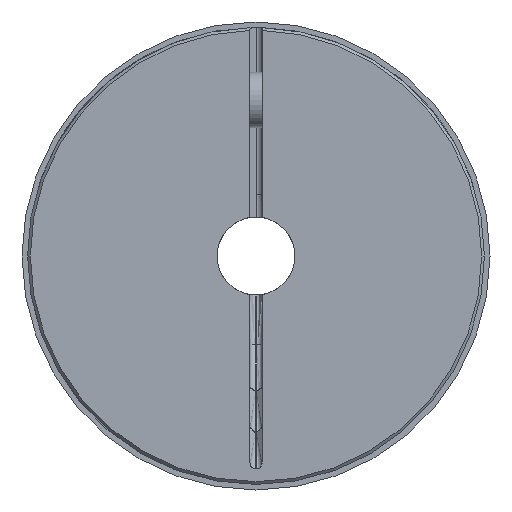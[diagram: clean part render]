
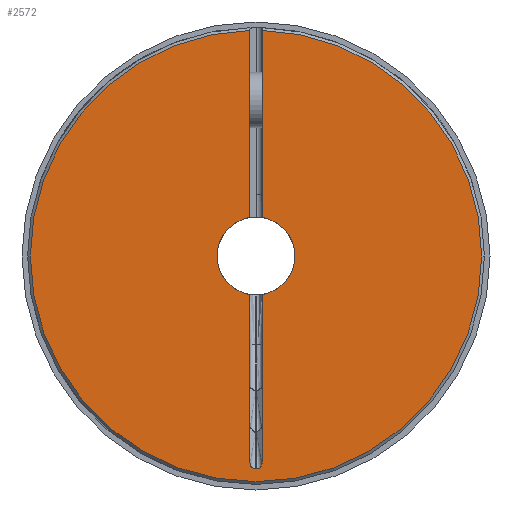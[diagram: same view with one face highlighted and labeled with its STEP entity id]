
A CAD part, left-side view. The second image highlights one B-rep face of the part: STEP entity #2572.
In plain terms, the highlighted planar face has unit normal (-1, 0, 0).
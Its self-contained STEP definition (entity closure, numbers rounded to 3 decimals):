
#16 = ORIENTED_EDGE ( 'NONE', *, *, #86, .T. ) ;
#19 = VERTEX_POINT ( 'NONE', #2477 ) ;
#26 = CARTESIAN_POINT ( 'NONE',  ( -16.75, 0., 0. ) ) ;
#46 = CARTESIAN_POINT ( 'NONE',  ( -16.75, -1.1, -36.948 ) ) ;
#48 = ORIENTED_EDGE ( 'NONE', *, *, #1760, .T. ) ;
#60 = EDGE_CURVE ( 'NONE', #1389, #82, #852, .T. ) ;
#61 = ORIENTED_EDGE ( 'NONE', *, *, #1246, .T. ) ;
#82 = VERTEX_POINT ( 'NONE', #1049 ) ;
#86 = EDGE_CURVE ( 'NONE', #19, #234, #2545, .T. ) ;
#110 = CIRCLE ( 'NONE', #3406, 7. ) ;
#113 = DIRECTION ( 'NONE',  ( 0., 1., 0. ) ) ;
#115 = VERTEX_POINT ( 'NONE', #1430 ) ;
#182 = VERTEX_POINT ( 'NONE', #1445 ) ;
#234 = VERTEX_POINT ( 'NONE', #1285 ) ;
#239 = CARTESIAN_POINT ( 'NONE',  ( -16.75, -0.656, -38.025 ) ) ;
#253 = CARTESIAN_POINT ( 'NONE',  ( -16.75, 0.935, -37.671 ) ) ;
#261 = CARTESIAN_POINT ( 'NONE',  ( -16.75, -1.08, -37.246 ) ) ;
#270 = CARTESIAN_POINT ( 'NONE',  ( -16.75, -40.5, 0. ) ) ;
#274 = CARTESIAN_POINT ( 'NONE',  ( -16.75, 1.1, -37.099 ) ) ;
#313 = DIRECTION ( 'NONE',  ( 0., 0., 1. ) ) ;
#332 = VERTEX_POINT ( 'NONE', #2070 ) ;
#369 = EDGE_CURVE ( 'NONE', #115, #182, #2473, .T. ) ;
#424 = ORIENTED_EDGE ( 'NONE', *, *, #369, .T. ) ;
#438 = DIRECTION ( 'NONE',  ( 1., 0., 0. ) ) ;
#478 = CARTESIAN_POINT ( 'NONE',  ( -16.75, 0., 0. ) ) ;
#515 = DIRECTION ( 'NONE',  ( -1., 0., 0. ) ) ;
#522 = DIRECTION ( 'NONE',  ( 0., 0., 1. ) ) ;
#576 = LINE ( 'NONE', #3378, #3127 ) ;
#657 = AXIS2_PLACEMENT_3D ( 'NONE', #2500, #2708, #3051 ) ;
#755 = ORIENTED_EDGE ( 'NONE', *, *, #1512, .T. ) ;
#774 = FACE_OUTER_BOUND ( 'NONE', #1407, .T. ) ;
#846 = ORIENTED_EDGE ( 'NONE', *, *, #2248, .T. ) ;
#852 = LINE ( 'NONE', #2504, #3412 ) ;
#881 = AXIS2_PLACEMENT_3D ( 'NONE', #478, #3205, #113 ) ;
#912 = EDGE_CURVE ( 'NONE', #1989, #332, #1167, .T. ) ;
#923 = VECTOR ( 'NONE', #3447, 1000. ) ;
#1040 = LINE ( 'NONE', #1385, #1907 ) ;
#1049 = CARTESIAN_POINT ( 'NONE',  ( -16.75, -1.1, 40.485 ) ) ;
#1091 = CARTESIAN_POINT ( 'NONE',  ( -16.75, -1.1, -37.099 ) ) ;
#1117 = VERTEX_POINT ( 'NONE', #270 ) ;
#1134 = EDGE_CURVE ( 'NONE', #1117, #82, #3310, .T. ) ;
#1147 = DIRECTION ( 'NONE',  ( 0., 1., 0. ) ) ;
#1158 = EDGE_CURVE ( 'NONE', #2465, #115, #1916, .T. ) ;
#1167 = B_SPLINE_CURVE_WITH_KNOTS ( 'NONE', 3,
 ( #2718, #1091, #261, #2493, #3339, #1865, #239, #2983, #1362, #3305 ),
 .UNSPECIFIED., .F., .F.,
 ( 4, 2, 2, 2, 4 ),
 ( 0., 0., 0.001, 0.001, 0.002 ),
 .UNSPECIFIED. ) ;
#1244 = LINE ( 'NONE', #3519, #923 ) ;
#1246 = EDGE_CURVE ( 'NONE', #1456, #1117, #3365, .T. ) ;
#1282 = CARTESIAN_POINT ( 'NONE',  ( -16.75, 0., 0. ) ) ;
#1285 = CARTESIAN_POINT ( 'NONE',  ( -16.75, 1.1, -36.948 ) ) ;
#1324 = CARTESIAN_POINT ( 'NONE',  ( -16.75, 40.5, 0. ) ) ;
#1362 = CARTESIAN_POINT ( 'NONE',  ( -16.75, -0.251, -38.224 ) ) ;
#1371 = CARTESIAN_POINT ( 'NONE',  ( -16.75, -1.1, 6.913 ) ) ;
#1385 = CARTESIAN_POINT ( 'NONE',  ( -16.75, -1.1, 0. ) ) ;
#1389 = VERTEX_POINT ( 'NONE', #1371 ) ;
#1407 = EDGE_LOOP ( 'NONE', ( #424, #48, #61, #2722, #1708, #755, #1866, #2104, #2567, #16, #846, #2782 ) ) ;
#1430 = CARTESIAN_POINT ( 'NONE',  ( -16.75, 1.1, 6.913 ) ) ;
#1445 = CARTESIAN_POINT ( 'NONE',  ( -16.75, 1.1, 40.485 ) ) ;
#1456 = VERTEX_POINT ( 'NONE', #1324 ) ;
#1512 = EDGE_CURVE ( 'NONE', #1389, #2829, #110, .T. ) ;
#1543 = CARTESIAN_POINT ( 'NONE',  ( -16.75, 1.1, -6.913 ) ) ;
#1560 = EDGE_CURVE ( 'NONE', #332, #19, #1244, .T. ) ;
#1654 = DIRECTION ( 'NONE',  ( 0., 0., 1. ) ) ;
#1708 = ORIENTED_EDGE ( 'NONE', *, *, #60, .F. ) ;
#1743 = AXIS2_PLACEMENT_3D ( 'NONE', #26, #3275, #1147 ) ;
#1760 = EDGE_CURVE ( 'NONE', #182, #1456, #2442, .T. ) ;
#1775 = CARTESIAN_POINT ( 'NONE',  ( -16.75, -1.1, -6.913 ) ) ;
#1865 = CARTESIAN_POINT ( 'NONE',  ( -16.75, -0.765, -37.917 ) ) ;
#1866 = ORIENTED_EDGE ( 'NONE', *, *, #2565, .F. ) ;
#1886 = CARTESIAN_POINT ( 'NONE',  ( -16.75, 0.655, -38.026 ) ) ;
#1907 = VECTOR ( 'NONE', #1654, 1000. ) ;
#1916 = CIRCLE ( 'NONE', #657, 7. ) ;
#1989 = VERTEX_POINT ( 'NONE', #46 ) ;
#2070 = CARTESIAN_POINT ( 'NONE',  ( -16.75, -0.1, -38.224 ) ) ;
#2104 = ORIENTED_EDGE ( 'NONE', *, *, #912, .T. ) ;
#2208 = AXIS2_PLACEMENT_3D ( 'NONE', #3065, #2772, #2478 ) ;
#2211 = CARTESIAN_POINT ( 'NONE',  ( -16.75, 0.251, -38.224 ) ) ;
#2248 = EDGE_CURVE ( 'NONE', #234, #2465, #576, .T. ) ;
#2442 = CIRCLE ( 'NONE', #881, 40.5 ) ;
#2453 = CARTESIAN_POINT ( 'NONE',  ( -16.75, 1.1, 0. ) ) ;
#2465 = VERTEX_POINT ( 'NONE', #1543 ) ;
#2468 = CARTESIAN_POINT ( 'NONE',  ( -16.75, 0.997, -37.535 ) ) ;
#2473 = LINE ( 'NONE', #2453, #2914 ) ;
#2477 = CARTESIAN_POINT ( 'NONE',  ( -16.75, 0.1, -38.224 ) ) ;
#2478 = DIRECTION ( 'NONE',  ( 0., 1., 0. ) ) ;
#2493 = CARTESIAN_POINT ( 'NONE',  ( -16.75, -0.997, -37.534 ) ) ;
#2500 = CARTESIAN_POINT ( 'NONE',  ( -16.75, 0., 0. ) ) ;
#2504 = CARTESIAN_POINT ( 'NONE',  ( -16.75, -1.1, 0. ) ) ;
#2523 = DIRECTION ( 'NONE',  ( 0., 0., 1. ) ) ;
#2545 = B_SPLINE_CURVE_WITH_KNOTS ( 'NONE', 3,
 ( #3261, #2211, #3538, #1886, #2757, #253, #2468, #3557, #274, #3314 ),
 .UNSPECIFIED., .F., .F.,
 ( 4, 2, 2, 2, 4 ),
 ( 0., 0., 0.001, 0.001, 0.002 ),
 .UNSPECIFIED. ) ;
#2565 = EDGE_CURVE ( 'NONE', #1989, #2829, #1040, .T. ) ;
#2567 = ORIENTED_EDGE ( 'NONE', *, *, #1560, .T. ) ;
#2572 = ADVANCED_FACE ( 'NONE', ( #774 ), #3504, .F. ) ;
#2708 = DIRECTION ( 'NONE',  ( 1., 0., 0. ) ) ;
#2718 = CARTESIAN_POINT ( 'NONE',  ( -16.75, -1.1, -36.948 ) ) ;
#2722 = ORIENTED_EDGE ( 'NONE', *, *, #1134, .T. ) ;
#2757 = CARTESIAN_POINT ( 'NONE',  ( -16.75, 0.764, -37.918 ) ) ;
#2772 = DIRECTION ( 'NONE',  ( 1., 0., 0. ) ) ;
#2782 = ORIENTED_EDGE ( 'NONE', *, *, #1158, .T. ) ;
#2829 = VERTEX_POINT ( 'NONE', #1775 ) ;
#2914 = VECTOR ( 'NONE', #522, 1000. ) ;
#2983 = CARTESIAN_POINT ( 'NONE',  ( -16.75, -0.399, -38.179 ) ) ;
#3011 = CARTESIAN_POINT ( 'NONE',  ( -16.75, 0., 0. ) ) ;
#3051 = DIRECTION ( 'NONE',  ( 0., 0., -1. ) ) ;
#3065 = CARTESIAN_POINT ( 'NONE',  ( -16.75, 0., 0. ) ) ;
#3127 = VECTOR ( 'NONE', #2523, 1000. ) ;
#3140 = AXIS2_PLACEMENT_3D ( 'NONE', #3011, #515, #3573 ) ;
#3205 = DIRECTION ( 'NONE',  ( -1., 0., 0. ) ) ;
#3225 = DIRECTION ( 'NONE',  ( 0., 0., -1. ) ) ;
#3261 = CARTESIAN_POINT ( 'NONE',  ( -16.75, 0.1, -38.224 ) ) ;
#3275 = DIRECTION ( 'NONE',  ( -1., 0., 0. ) ) ;
#3305 = CARTESIAN_POINT ( 'NONE',  ( -16.75, -0.1, -38.224 ) ) ;
#3310 = CIRCLE ( 'NONE', #1743, 40.5 ) ;
#3314 = CARTESIAN_POINT ( 'NONE',  ( -16.75, 1.1, -36.948 ) ) ;
#3339 = CARTESIAN_POINT ( 'NONE',  ( -16.75, -0.935, -37.671 ) ) ;
#3365 = CIRCLE ( 'NONE', #3140, 40.5 ) ;
#3378 = CARTESIAN_POINT ( 'NONE',  ( -16.75, 1.1, 0. ) ) ;
#3406 = AXIS2_PLACEMENT_3D ( 'NONE', #1282, #438, #3225 ) ;
#3412 = VECTOR ( 'NONE', #313, 1000. ) ;
#3447 = DIRECTION ( 'NONE',  ( 0., 1., 0. ) ) ;
#3504 = PLANE ( 'NONE',  #2208 ) ;
#3519 = CARTESIAN_POINT ( 'NONE',  ( -16.75, -1.1, -38.224 ) ) ;
#3538 = CARTESIAN_POINT ( 'NONE',  ( -16.75, 0.399, -38.179 ) ) ;
#3557 = CARTESIAN_POINT ( 'NONE',  ( -16.75, 1.08, -37.246 ) ) ;
#3573 = DIRECTION ( 'NONE',  ( 0., 1., 0. ) ) ;
